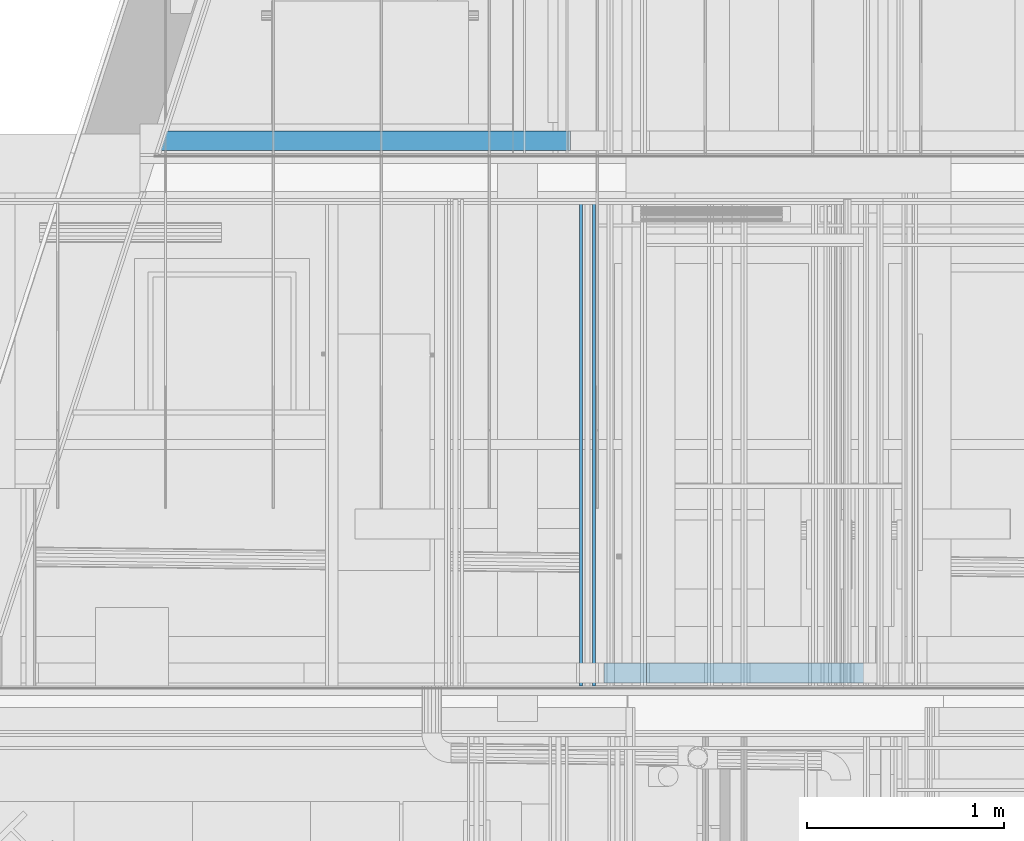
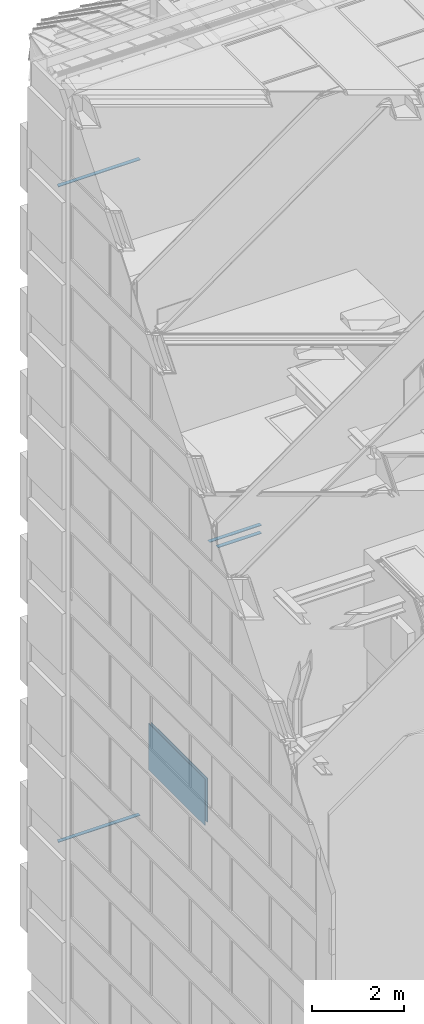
# One storey, part 136 of 583: 6 building element parts, 4 elements without a shape of their own.
"""IFC2X3 building model written with IfcOpenShell, lengths in metres."""

from ifc_helpers import new_model, entity, si_unit, converted_unit, derived_unit, money_unit, direction, frame, origin_with_axes, place, context, subcontext, project, spatial, polyline, outline, extrude, clip, halfspace, material, type_object, element, aggregate, save


model = new_model("IFC2X3")

# Units and contexts
model_context = context("Model", 3, precision=1e-05, world=origin_with_axes(), true_north=direction((0.0, 1.0)))
body_context = subcontext(model_context, "Body", "Model", "MODEL_VIEW", scale=1.0)
ifc_project = project(units=[si_unit("LENGTHUNIT", "METRE"), si_unit("AREAUNIT", "SQUARE_METRE"), si_unit("VOLUMEUNIT", "CUBIC_METRE"), si_unit("ABSORBEDDOSEUNIT", "GRAY"), si_unit("AMOUNTOFSUBSTANCEUNIT", "MOLE"), si_unit("DOSEEQUIVALENTUNIT", "SIEVERT"), si_unit("ELECTRICCAPACITANCEUNIT", "FARAD"), si_unit("ELECTRICCHARGEUNIT", "COULOMB"), si_unit("ELECTRICCONDUCTANCEUNIT", "SIEMENS"), si_unit("ELECTRICCURRENTUNIT", "AMPERE"), si_unit("ELECTRICRESISTANCEUNIT", "OHM"), si_unit("ELECTRICVOLTAGEUNIT", "VOLT"), si_unit("ENERGYUNIT", "JOULE"), si_unit("FORCEUNIT", "NEWTON"), si_unit("FREQUENCYUNIT", "HERTZ"), si_unit("ILLUMINANCEUNIT", "LUX"), si_unit("INDUCTANCEUNIT", "HENRY"), si_unit("LUMINOUSFLUXUNIT", "LUMEN"), si_unit("LUMINOUSINTENSITYUNIT", "CANDELA"), si_unit("MAGNETICFLUXDENSITYUNIT", "TESLA"), si_unit("MAGNETICFLUXUNIT", "WEBER"), si_unit("MASSUNIT", "GRAM"), converted_unit("PLANEANGLEUNIT", "degree", entity("IfcReal", 0.0174532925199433), si_unit("PLANEANGLEUNIT", "RADIAN"), dimensions=[0, 0, 0, 0, 0, 0, 0]), si_unit("POWERUNIT", "WATT"), si_unit("PRESSUREUNIT", "PASCAL"), si_unit("RADIOACTIVITYUNIT", "BECQUEREL"), si_unit("SOLIDANGLEUNIT", "STERADIAN"), si_unit("THERMODYNAMICTEMPERATUREUNIT", "KELVIN"), si_unit("TIMEUNIT", "SECOND"), derived_unit("ACCELERATIONUNIT", [(si_unit("LENGTHUNIT", "METRE"), 1), (si_unit("TIMEUNIT", "SECOND"), -2)]), derived_unit("ANGULARVELOCITYUNIT", [(converted_unit("PLANEANGLEUNIT", "degree", entity("IfcReal", 0.0174532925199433), si_unit("PLANEANGLEUNIT", "RADIAN"), dimensions=[0, 0, 0, 0, 0, 0, 0]), 1), (si_unit("TIMEUNIT", "SECOND"), -1)]), derived_unit("CURVATUREUNIT", [(converted_unit("PLANEANGLEUNIT", "degree", entity("IfcReal", 0.0174532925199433), si_unit("PLANEANGLEUNIT", "RADIAN"), dimensions=[0, 0, 0, 0, 0, 0, 0]), 1), (si_unit("LENGTHUNIT", "METRE"), -1)]), derived_unit("DYNAMICVISCOSITYUNIT", [(si_unit("PRESSUREUNIT", "PASCAL"), 1), (si_unit("TIMEUNIT", "SECOND"), 1)]), derived_unit("HEATFLUXDENSITYUNIT", [(si_unit("POWERUNIT", "WATT"), 1), (si_unit("LENGTHUNIT", "METRE"), -2)]), derived_unit("HEATINGVALUEUNIT", [(si_unit("ENERGYUNIT", "JOULE"), 1), (si_unit("MASSUNIT", "GRAM"), -1)]), derived_unit("INTEGERCOUNTRATEUNIT", [(si_unit("TIMEUNIT", "SECOND"), -1)]), derived_unit("IONCONCENTRATIONUNIT", [(si_unit("MASSUNIT", "GRAM"), 1), (si_unit("VOLUMEUNIT", "CUBIC_METRE"), -1)]), derived_unit("ISOTHERMALMOISTURECAPACITYUNIT", [(si_unit("VOLUMEUNIT", "CUBIC_METRE"), 1), (si_unit("MASSUNIT", "GRAM"), -1)]), derived_unit("KINEMATICVISCOSITYUNIT", [(si_unit("AREAUNIT", "SQUARE_METRE"), 1), (si_unit("TIMEUNIT", "SECOND"), -1)]), derived_unit("LINEARFORCEUNIT", [(si_unit("FORCEUNIT", "NEWTON"), 1), (si_unit("LENGTHUNIT", "METRE"), -1)]), derived_unit("LINEARMOMENTUNIT", [(si_unit("FORCEUNIT", "NEWTON"), 1), (si_unit("LENGTHUNIT", "METRE"), -1)]), derived_unit("LINEARSTIFFNESSUNIT", [(si_unit("FORCEUNIT", "NEWTON"), 1), (si_unit("LENGTHUNIT", "METRE"), -1)]), derived_unit("LINEARVELOCITYUNIT", [(si_unit("LENGTHUNIT", "METRE"), 1), (si_unit("TIMEUNIT", "SECOND"), -1)]), derived_unit("LUMINOUSINTENSITYDISTRIBUTIONUNIT", [(si_unit("LUMINOUSINTENSITYUNIT", "CANDELA"), 1), (si_unit("LUMINOUSFLUXUNIT", "LUMEN"), -1)]), derived_unit("MASSDENSITYUNIT", [(si_unit("MASSUNIT", "GRAM"), 1), (si_unit("VOLUMEUNIT", "CUBIC_METRE"), -1)]), derived_unit("MASSFLOWRATEUNIT", [(si_unit("MASSUNIT", "GRAM"), 1), (si_unit("TIMEUNIT", "SECOND"), -1)]), derived_unit("MASSPERLENGTHUNIT", [(si_unit("MASSUNIT", "GRAM"), 1), (si_unit("LENGTHUNIT", "METRE"), -1)]), derived_unit("MODULUSOFELASTICITYUNIT", [(si_unit("FORCEUNIT", "NEWTON"), 1), (si_unit("AREAUNIT", "SQUARE_METRE"), -1)]), derived_unit("MODULUSOFLINEARSUBGRADEREACTIONUNIT", [(si_unit("FORCEUNIT", "NEWTON"), 1), (si_unit("LENGTHUNIT", "METRE"), -2)]), derived_unit("MODULUSOFROTATIONALSUBGRADEREACTIONUNIT", [(si_unit("FORCEUNIT", "NEWTON"), 1), (si_unit("LENGTHUNIT", "METRE"), 1)]), derived_unit("MODULUSOFSUBGRADEREACTIONUNIT", [(si_unit("FORCEUNIT", "NEWTON"), 1), (si_unit("VOLUMEUNIT", "CUBIC_METRE"), -1)]), derived_unit("MOISTUREDIFFUSIVITYUNIT", [(si_unit("VOLUMEUNIT", "CUBIC_METRE"), 1), (si_unit("TIMEUNIT", "SECOND"), -1)]), derived_unit("MOLECULARWEIGHTUNIT", [(si_unit("MASSUNIT", "GRAM"), 1), (si_unit("AMOUNTOFSUBSTANCEUNIT", "MOLE"), -1)]), derived_unit("PLANARFORCEUNIT", [(si_unit("FORCEUNIT", "NEWTON"), 1), (si_unit("LENGTHUNIT", "METRE"), -2)]), derived_unit("ROTATIONALFREQUENCYUNIT", [(si_unit("TIMEUNIT", "SECOND"), -1)]), derived_unit("ROTATIONALMASSUNIT", [(si_unit("MASSUNIT", "GRAM"), 1), (si_unit("LENGTHUNIT", "METRE"), 2)]), derived_unit("ROTATIONALSTIFFNESSUNIT", [(si_unit("FORCEUNIT", "NEWTON"), 1), (si_unit("LENGTHUNIT", "METRE"), 1), (converted_unit("PLANEANGLEUNIT", "degree", entity("IfcReal", 0.0174532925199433), si_unit("PLANEANGLEUNIT", "RADIAN"), dimensions=[0, 0, 0, 0, 0, 0, 0]), -1)]), derived_unit("SECTIONAREAINTEGRALUNIT", [(si_unit("LENGTHUNIT", "METRE"), 5)]), derived_unit("SECTIONMODULUSUNIT", [(si_unit("LENGTHUNIT", "METRE"), 3)]), derived_unit("SHEARMODULUSUNIT", [(si_unit("FORCEUNIT", "NEWTON"), 1), (si_unit("AREAUNIT", "SQUARE_METRE"), -1)]), derived_unit("SOUNDPOWERUNIT", [(si_unit("ENERGYUNIT", "JOULE"), 1), (si_unit("TIMEUNIT", "SECOND"), -1)]), derived_unit("SPECIFICHEATCAPACITYUNIT", [(si_unit("FORCEUNIT", "NEWTON"), 1), (si_unit("MASSUNIT", "GRAM"), -1), (si_unit("THERMODYNAMICTEMPERATUREUNIT", "KELVIN"), -1)]), derived_unit("TEMPERATUREGRADIENTUNIT", [(si_unit("THERMODYNAMICTEMPERATUREUNIT", "KELVIN"), 1), (si_unit("LENGTHUNIT", "METRE"), -1)]), derived_unit("THERMALADMITTANCEUNIT", [(si_unit("POWERUNIT", "WATT"), 1), (si_unit("AREAUNIT", "SQUARE_METRE"), -1), (si_unit("THERMODYNAMICTEMPERATUREUNIT", "KELVIN"), -1)]), derived_unit("THERMALCONDUCTANCEUNIT", [(si_unit("POWERUNIT", "WATT"), 1), (si_unit("LENGTHUNIT", "METRE"), -1), (si_unit("THERMODYNAMICTEMPERATUREUNIT", "KELVIN"), -1)]), derived_unit("THERMALEXPANSIONCOEFFICIENTUNIT", [(si_unit("THERMODYNAMICTEMPERATUREUNIT", "KELVIN"), -1)]), derived_unit("THERMALRESISTANCEUNIT", [(si_unit("AREAUNIT", "SQUARE_METRE"), 1), (si_unit("POWERUNIT", "WATT"), -1)]), derived_unit("THERMALTRANSMITTANCEUNIT", [(si_unit("POWERUNIT", "WATT"), 1), (si_unit("AREAUNIT", "SQUARE_METRE"), -1), (si_unit("THERMODYNAMICTEMPERATUREUNIT", "KELVIN"), -1)]), derived_unit("TORQUEUNIT", [(si_unit("FORCEUNIT", "NEWTON"), 1), (si_unit("LENGTHUNIT", "METRE"), 1)]), derived_unit("VAPORPERMEABILITYUNIT", [(si_unit("MASSUNIT", "GRAM"), 1), (si_unit("TIMEUNIT", "SECOND"), -1)]), derived_unit("VOLUMETRICFLOWRATEUNIT", [(si_unit("VOLUMEUNIT", "CUBIC_METRE"), 1), (si_unit("TIMEUNIT", "SECOND"), -1)]), derived_unit("WARPINGCONSTANTUNIT", [(si_unit("LENGTHUNIT", "METRE"), 6)]), derived_unit("WARPINGMOMENTUNIT", [(si_unit("FORCEUNIT", "NEWTON"), 1), (si_unit("LENGTHUNIT", "METRE"), 2)]), money_unit("GBP")], contexts=[model_context])

# Site, building, storey
site_placement = place(None, origin_with_axes())
site = spatial("IfcSite", under=ifc_project, at=site_placement, Name="Site", CompositionType="ELEMENT")
building_placement = place(site_placement, origin_with_axes())
building = spatial("IfcBuilding", under=site, at=building_placement, Name="Building01", CompositionType="ELEMENT")
storey_placement = place(building_placement, frame((0.0, 0.0, 20.78), z_axis=(0.0, 0.0, 1.0), x_axis=(1.0, 0.0, 0.0)))
storey = spatial("IfcBuildingStorey", under=building, at=storey_placement, Name="RL", CompositionType="ELEMENT", Elevation=20.78)

# Wall, building element parts
wall_type_1 = type_object("IfcWallType", Name="SHE_A-Walls_Type01d_Partywall_200mm_twin", PredefinedType="NOTDEFINED")
wall_1_placement = place(storey_placement, frame((3.805, 14.98, -7.255), z_axis=(0.0, 1.0, 0.0), x_axis=(1.0, 0.0, 0.0)))
wall_1 = element("IfcWall", 1, at=wall_1_placement, inside=storey, type_object=wall_type_1, Name="1D", ObjectType="SHE_A-Walls_Type01d_Partywall_200mm_twin")
ifc_material_1 = material(Name="A_BSUK_Walls_Timber")
placement_1 = place(wall_1_placement, origin_with_axes())
building_element_part_1 = element("IfcBuildingElementPart", 2, at=placement_1, material=ifc_material_1, Name="2", context=body_context, shape_type="SweptSolid", body=[
    extrude(outline(polyline([(1.175, 0.14), (0.09, 0.14), (0.075, 0.125), (1.175, 0.125), (1.175, 0.14)])), frame((0.0, 0.0, 0.015), z_axis=(0.0, 0.0, 1.0), x_axis=(1.0, 0.0, 0.0)), (0.0, 0.0, 1.0), 0.1),
])
building_element_part_2 = element("IfcBuildingElementPart", 3, at=placement_1, material=ifc_material_1, Name="7", context=body_context, shape_type="SweptSolid", body=[
    extrude(outline(polyline([(1.175, -0.075), (-0.125, -0.075), (-0.14, -0.09), (1.175, -0.09), (1.175, -0.075)])), frame((0.0, 0.0, 0.015), z_axis=(0.0, 0.0, 1.0), x_axis=(1.0, 0.0, 0.0)), (0.0, 0.0, 1.0), 0.1),
])
aggregate(wall_1, [building_element_part_1, building_element_part_2])

wall_type_2 = type_object("IfcWallType", Name="SHE_A-Walls_Type05b_Partition_80mm", PredefinedType="NOTDEFINED")
wall_2_placement = place(storey_placement, frame((3.566939, 14.98, -14.632902), z_axis=(0.0, 1.0, 0.0), x_axis=(0.0, 0.0, 1.0)))
wall_2 = element("IfcWall", 4, at=wall_2_placement, inside=storey, type_object=wall_type_2, Name="5B", ObjectType="SHE_A-Walls_Type05b_Partition_80mm")
ifc_material_2 = material(Name="A_BSUK_WallInternal_Finishes_Plasterboard")
placement_2 = place(wall_2_placement, origin_with_axes())
building_element_part_3 = element("IfcBuildingElementPart", 5, at=placement_2, material=ifc_material_2, Name="3", context=body_context, shape_type="SweptSolid", body=[
    extrude(outline(polyline([(1.212902, 0.053), (0.053, 0.053), (0.038, 0.038), (1.212902, 0.038), (1.212902, 0.053)])), origin_with_axes(), (0.0, 0.0, 1.0), 2.468),
])
building_element_part_4 = element("IfcBuildingElementPart", 6, at=placement_2, material=ifc_material_2, Name="4", context=body_context, shape_type="SweptSolid", body=[
    extrude(outline(polyline([(1.212902, -0.012), (-0.012, -0.012), (-0.027, -0.027), (1.212902, -0.027), (1.212902, -0.012)])), origin_with_axes(), (0.0, 0.0, 1.0), 2.468),
])
aggregate(wall_2, [building_element_part_3, building_element_part_4])

# Wall, building element part
wall_type_3 = type_object("IfcWallType", Name="SHE_A-Walls_Type06e_ExternalWallPenthouse_280mm", PredefinedType="NOTDEFINED")
wall_3_placement = place(storey_placement, frame((2.818607, 17.68, -15.784976), z_axis=(0.0, 1.0, 0.0), x_axis=(1.0, 0.0, 0.0)))
wall_3 = element("IfcWall", 7, at=wall_3_placement, inside=storey, type_object=wall_type_3, Name="6E", ObjectType="SHE_A-Walls_Type06e_ExternalWallPenthouse_280mm")
building_element_part_5_placement = place(wall_3_placement, origin_with_axes())
building_element_part_5 = element("IfcBuildingElementPart", 8, at=building_element_part_5_placement, material=ifc_material_1, Name="3", context=body_context, shape_type="Clipping", body=[
    clip(extrude(outline(polyline([(0.676333, 0.23), (-1.404691, 0.23), (-1.404691, 0.215), (0.661333, 0.215), (0.676333, 0.23)])), frame((0.0, 0.0, 0.015), z_axis=(0.0, 0.0, 1.0), x_axis=(1.0, 0.0, 0.0)), (0.0, 0.0, 1.0), 0.1), halfspace(frame((-1.274964, 0.0, 0.41426), z_axis=(0.95105669, 0.0, -0.30901647), x_axis=(0.0, 1.0, 0.0)), True)),
])
aggregate(wall_3, [building_element_part_5])

wall_4_placement = place(storey_placement, frame((3.264939, 17.68, 1.224976), z_axis=(0.0, 1.0, 0.0), x_axis=(-1.0, 0.0, 0.0)))
wall_4 = element("IfcWall", 9, at=wall_4_placement, inside=storey, type_object=wall_type_3, Name="6E", ObjectType="SHE_A-Walls_Type06e_ExternalWallPenthouse_280mm")
building_element_part_6_placement = place(wall_4_placement, origin_with_axes())
building_element_part_6 = element("IfcBuildingElementPart", 10, at=building_element_part_6_placement, material=ifc_material_1, Name="3", context=body_context, shape_type="Clipping", body=[
    clip(extrude(outline(polyline([(1.851024, 0.23), (-0.23, 0.23), (-0.215, 0.215), (1.851024, 0.215), (1.851024, 0.23)])), frame((0.0, 0.0, 0.015), z_axis=(0.0, 0.0, 1.0), x_axis=(1.0, 0.0, 0.0)), (0.0, 0.0, 1.0), 0.1), halfspace(frame((1.678676, 0.0, 0.545434), z_axis=(-0.95105669, 0.0, -0.30901647), x_axis=(0.0, -1.0, 0.0)), True)),
])
aggregate(wall_4, [building_element_part_6])

save(model, "model.ifc")
